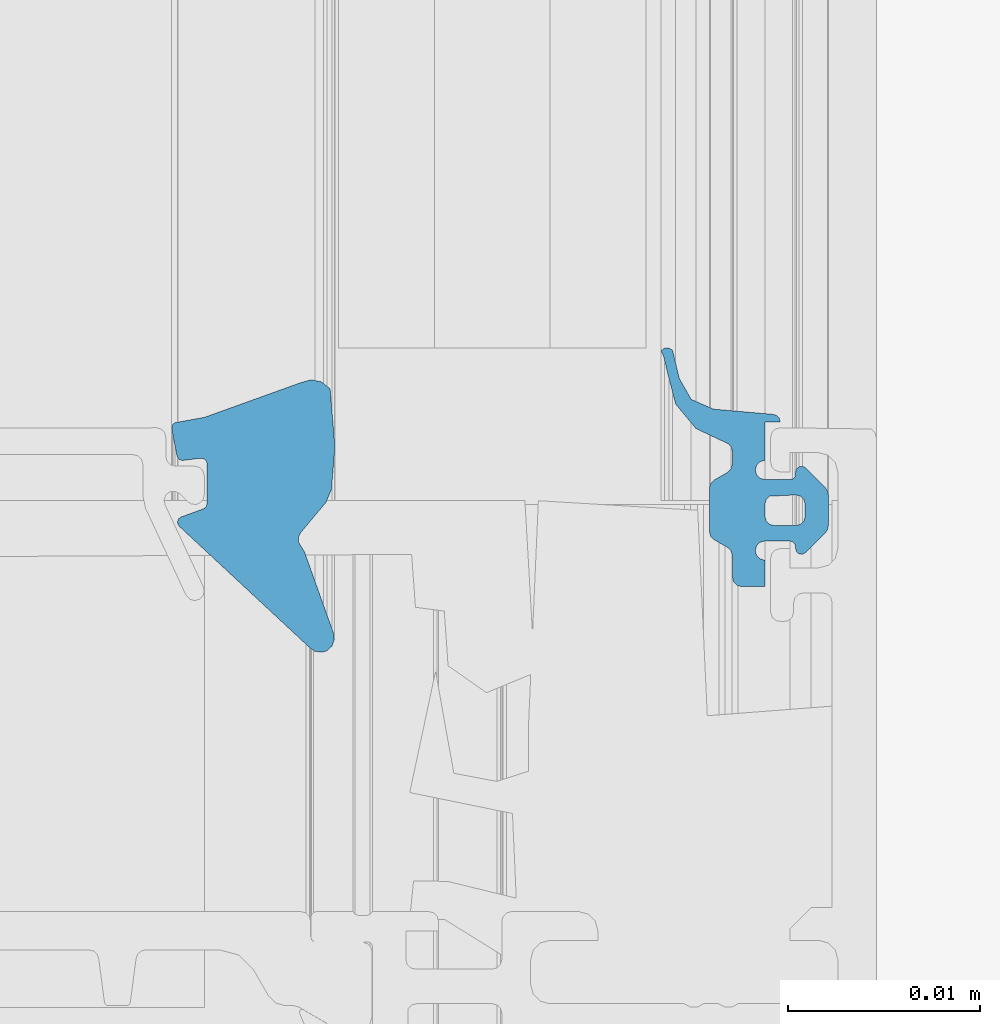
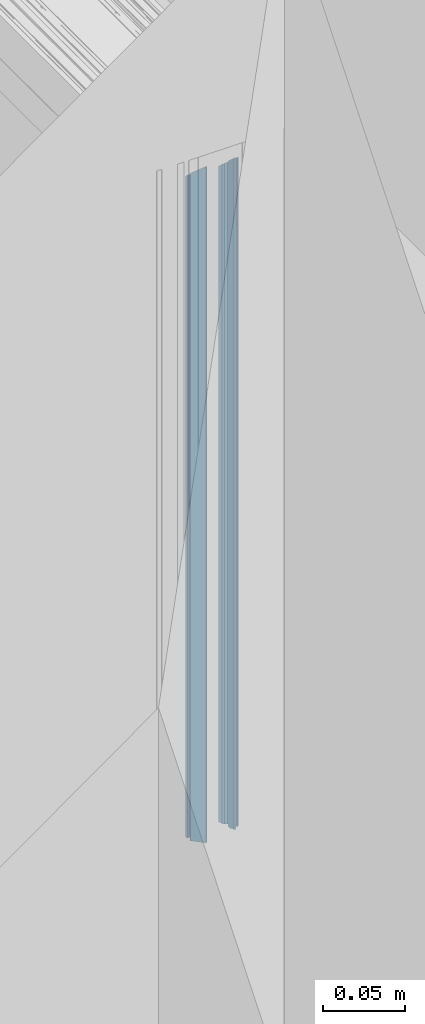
# One storey, part 28 of 89: 1 building element part, 2 elements without a shape of their own.
"""IFC2X3 building model written with IfcOpenShell, lengths in millimetres."""

from ifc_helpers import new_model, entity, si_unit, converted_unit, derived_unit, money_unit, direction, frame, origin_with_axes, place, context, subcontext, project, spatial, faceted_brep, source, transform, mapped, material, type_object, element, aggregate, save


model = new_model("IFC2X3")

# Units and contexts
model_context = context("Model", 3, precision=0.01, world=origin_with_axes(), true_north=direction((0.0, 1.0)))
body_context = subcontext(model_context, "Body", "Model", "MODEL_VIEW")
ifc_project = project(units=[si_unit("LENGTHUNIT", "METRE", prefix="MILLI"), si_unit("AREAUNIT", "SQUARE_METRE"), si_unit("VOLUMEUNIT", "CUBIC_METRE"), converted_unit("PLANEANGLEUNIT", "DEGREE", entity("IfcPlaneAngleMeasure", 0.0174532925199), si_unit("PLANEANGLEUNIT", "RADIAN"), dimensions=[0, 0, 0, 0, 0, 0, 0]), si_unit("SOLIDANGLEUNIT", "STERADIAN"), money_unit("EUR"), converted_unit("TIMEUNIT", "Year", entity("IfcTimeMeasure", 31556926.0), si_unit("TIMEUNIT", "SECOND"), dimensions=[0, 0, 1, 0, 0, 0, 0]), si_unit("MASSUNIT", "GRAM", prefix="KILO"), si_unit("THERMODYNAMICTEMPERATUREUNIT", "DEGREE_CELSIUS"), si_unit("LUMINOUSINTENSITYUNIT", "LUMEN"), si_unit("ENERGYUNIT", "JOULE", prefix="MEGA"), derived_unit("THERMALCONDUCTANCEUNIT", [(si_unit("POWERUNIT", "WATT"), 1), (si_unit("LENGTHUNIT", "METRE"), -1), (si_unit("THERMODYNAMICTEMPERATUREUNIT", "KELVIN"), -1)]), derived_unit("SPECIFICHEATCAPACITYUNIT", [(si_unit("ENERGYUNIT", "JOULE"), 1), (si_unit("MASSUNIT", "GRAM", prefix="KILO"), -1), (si_unit("THERMODYNAMICTEMPERATUREUNIT", "KELVIN"), -1)]), derived_unit("MASSDENSITYUNIT", [(si_unit("MASSUNIT", "GRAM", prefix="KILO"), 1), (si_unit("VOLUMEUNIT", "CUBIC_METRE"), -1)])], contexts=[model_context])

# Site, building, storey
site_placement = place(None, origin_with_axes())
site = spatial("IfcSite", under=ifc_project, at=site_placement, Name="Puškini 31, Narva", CompositionType="ELEMENT")
building_placement = place(site_placement, origin_with_axes())
building = spatial("IfcBuilding", under=site, at=building_placement, Name="Narva Riigigümnaasium", CompositionType="ELEMENT")
storey_placement = place(building_placement, frame((0.0, 0.0, -3300.0), z_axis=(0.0, 0.0, 1.0), x_axis=(1.0, 0.0, 0.0)))
storey = spatial("IfcBuildingStorey", under=building, at=storey_placement, Name="1.korrus -3.3", CompositionType="ELEMENT", Elevation=-3300.0)

# Curtain wall, member, building element part
curtain_wall_type = type_object("IfcCurtainWallType", Name="Curtain Wall Type", PredefinedType="NOTDEFINED")
curtain_wall_placement = place(storey_placement, frame((34855.0104166, 221770.599999, -2.45869391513e-05), z_axis=(0.0, 0.0, 1.0), x_axis=(1.0, 0.0, 0.0)))
curtain_wall = element("IfcCurtainWall", 1, at=curtain_wall_placement, inside=storey, type_object=curtain_wall_type, Name="G-SKLF-08")
member_type = type_object("IfcMemberType", Name="61 x 45", PredefinedType="MULLION")
member_placement = place(curtain_wall_placement, frame((0.00211230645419, -490.599999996, 2400.00002459), z_axis=(0.0, 0.0, 1.0), x_axis=(4.3055573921e-06, -0.999999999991, 0.0)))
member = element("IfcMember", 2, at=member_placement, type_object=member_type, Name="G-SKLF-08-raam", ObjectType="MULLION")
aggregate(curtain_wall, [member])
ifc_material = material(Name="Membraan - Veekindel")
shared_shape = source(origin_with_axes(), body_context, "Body", "Brep", [
    faceted_brep([(-61.0413385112, 34.3890442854, 0.0), (-61.0413385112, 34.3890442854, 488.958661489), (-59.5800222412, 34.73794757, 490.419977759), (-59.5800222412, 34.73794757, 0.0), (-61.1536677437, 34.1934467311, 0.0), (-61.1536677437, 34.1934467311, 488.846332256), (-61.1423164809, 33.9681748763, 488.857683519), (-61.0108941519, 33.784859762, 488.989105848), (-60.7381535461, 33.9217644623, 489.261846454), (-59.8409257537, 34.1343131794, 490.159074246), (-58.2346494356, 34.5489145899, 491.765350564), (-56.9567944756, 35.6067920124, 493.043205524), (-56.2495873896, 37.1074172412, 493.75041261), (-56.1542959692, 37.3107917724, 493.845704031), (-55.9795989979, 37.4519392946, 494.020401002), (-55.7607444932, 37.5023809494, 494.239255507), (-55.1093263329, 37.5023809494, 494.890673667), (-54.8593263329, 37.4353936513, 495.140673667), (-54.676313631, 37.2523809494, 495.323686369), (-54.2721684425, 36.5523809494, 495.727831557), (-54.0891557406, 36.3693682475, 495.910844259), (-53.8391557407, 36.3023809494, 496.160844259), (-51.602145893, 36.3023809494, 498.397854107), (-51.352145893, 36.3693682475, 498.647854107), (-51.1691331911, 36.5523809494, 498.830866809), (-50.7649880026, 37.2523809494, 499.235011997), (-50.5819753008, 37.4353936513, 499.418024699), (-50.3319753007, 37.5023809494, 499.668024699), (-49.2206527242, 37.5023809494, 500.779347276), (-48.9706527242, 37.5693682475, 501.029347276), (-48.7876400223, 37.7523809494, 501.212359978), (-48.7206527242, 38.0023809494, 501.279347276), (-48.7206527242, 39.1999494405, 501.279347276), (-50.10004, 39.1999494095, 499.89996), (-50.1670287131, 38.9499497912, 499.832971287), (-50.3500424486, 38.7669381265, 499.649957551), (-50.6000428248, 38.699952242, 499.399957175), (-50.8500424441, 38.7669409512, 499.149957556), (-51.0330541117, 38.9499546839, 498.966945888), (-51.10004, 39.1999550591, 498.89996), (-51.10004, 40.4999366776, 498.89996), (-51.0598476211, 40.6499366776, 498.940152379), (-50.95004, 40.7597442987, 499.04996), (-50.80004, 40.7999366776, 499.19996), (-50.7000457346, 40.7999366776, 499.299954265), (-50.5334025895, 40.8504763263, 499.466597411), (-50.4229059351, 40.9850671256, 499.577094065), (-50.4057850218, 41.1583618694, 499.594214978), (-50.4878083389, 41.3119729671, 499.512191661), (-51.5281601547, 42.3533311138, 498.471839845), (-51.6904310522, 42.4618421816, 498.309568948), (-51.8818844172, 42.4999486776, 498.118115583), (-53.517932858, 42.4999486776, 496.482067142), (-53.7093558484, 42.4618547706, 496.290644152), (-53.8716106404, 42.3533776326, 496.12838936), (-54.9122350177, 41.3120206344, 495.087764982), (-54.9942836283, 41.1584047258, 495.005716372), (-54.9771753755, 40.9850924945, 495.022824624), (-54.866675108, 40.850483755, 495.133324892), (-54.7000173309, 40.7999366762, 495.299982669), (-54.6000210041, 40.7999366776, 495.399978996), (-54.4500210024, 40.7597443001, 495.549978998), (-54.3402133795, 40.6499366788, 495.65978662), (-54.300021, 40.4999366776, 495.699979), (-54.300021, 39.1999606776, 495.699979), (-54.3670082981, 38.9499606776, 495.632991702), (-54.5500210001, 38.7669479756, 495.449979), (-54.8000210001, 38.6999606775, 495.199979), (-55.0500210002, 38.7669479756, 494.949979), (-55.2330337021, 38.9499606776, 494.766966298), (-55.3000210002, 39.1999606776, 494.699979), (-57.3000022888, 39.1999494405, 492.699997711), (-57.3000022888, 39.9999846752, 492.699997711), (-57.5000161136, 39.946391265, 492.499983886), (-57.6464370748, 39.799971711, 492.353562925), (-57.7000324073, 39.5999584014, 492.299967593), (-57.9693613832, 36.5265882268, 492.030638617), (-58.4755028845, 35.3628499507, 491.524497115), (-53.5000340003, 40.7999553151, 496.499966), (-53.4330491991, 41.0499459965, 496.566950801), (-53.2500433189, 41.2329518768, 496.749956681), (-53.0000526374, 41.299936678, 496.999947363), (-52.4000083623, 41.299936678, 497.599991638), (-52.150017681, 41.2329518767, 497.849982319), (-51.9670118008, 41.0499459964, 498.032988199), (-51.9000269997, 40.799955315, 498.099973), (-51.9000269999, 39.6999268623, 498.099973), (-51.9670129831, 39.4499317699, 498.032987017), (-52.1500220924, 39.2669226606, 497.849977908), (-52.4000171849, 39.1999366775, 497.599982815), (-53.0000438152, 39.1999366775, 496.999956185), (-53.2500389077, 39.2669226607, 496.749961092), (-53.433048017, 39.44993177, 496.566951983), (-58.4755028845, 35.3628499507, 0.0), (-57.9693613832, 36.5265882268, 0.0), (-57.7000324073, 39.5999584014, 0.0), (-57.6464370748, 39.799971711, 0.0), (-57.5000161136, 39.946391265, 0.0), (-57.3000022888, 39.9999846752, 0.0), (-57.3000022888, 39.1999494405, 0.0), (-55.3000210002, 39.1999606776, 0.0), (-55.2330337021, 38.9499606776, 0.0), (-55.0500210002, 38.7669479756, 0.0), (-54.8000210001, 38.6999606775, 0.0), (-54.5500210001, 38.7669479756, 0.0), (-54.3670082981, 38.9499606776, 0.0), (-54.300021, 39.1999606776, 0.0), (-54.300021, 40.4999366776, 0.0), (-54.3402133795, 40.6499366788, 0.0), (-54.4500210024, 40.7597443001, 0.0), (-54.6000210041, 40.7999366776, 0.0), (-54.7000173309, 40.7999366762, 0.0), (-54.866675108, 40.850483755, 0.0), (-54.9771753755, 40.9850924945, 0.0), (-54.9942836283, 41.1584047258, 0.0), (-54.9122350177, 41.3120206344, 0.0), (-53.8716106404, 42.3533776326, 0.0), (-53.7093558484, 42.4618547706, 0.0), (-53.517932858, 42.4999486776, 0.0), (-51.8818844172, 42.4999486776, 0.0), (-51.6904310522, 42.4618421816, 0.0), (-51.5281601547, 42.3533311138, 0.0), (-50.4878083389, 41.3119729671, 0.0), (-50.4057850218, 41.1583618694, 0.0), (-50.4229059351, 40.9850671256, 0.0), (-50.5334025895, 40.8504763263, 0.0), (-50.7000457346, 40.7999366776, 0.0), (-50.80004, 40.7999366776, 0.0), (-50.95004, 40.7597442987, 0.0), (-51.0598476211, 40.6499366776, 0.0), (-51.10004, 40.4999366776, 0.0), (-51.10004, 39.1999550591, 0.0), (-51.0330541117, 38.9499546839, 0.0), (-50.8500424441, 38.7669409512, 0.0), (-50.6000428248, 38.699952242, 0.0), (-50.3500424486, 38.7669381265, 0.0), (-50.1670287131, 38.9499497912, 0.0), (-50.10004, 39.1999494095, 0.0), (-48.7206527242, 39.1999494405, 0.0), (-48.7206527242, 38.0023809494, 0.0), (-48.7876400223, 37.7523809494, 0.0), (-48.9706527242, 37.5693682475, 0.0), (-49.2206527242, 37.5023809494, 0.0), (-50.3319753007, 37.5023809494, 0.0), (-50.5819753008, 37.4353936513, 0.0), (-50.7649880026, 37.2523809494, 0.0), (-51.1691331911, 36.5523809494, 0.0), (-51.352145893, 36.3693682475, 0.0), (-51.602145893, 36.3023809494, 0.0), (-53.8391557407, 36.3023809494, 0.0), (-54.0891557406, 36.3693682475, 0.0), (-54.2721684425, 36.5523809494, 0.0), (-54.676313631, 37.2523809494, 0.0), (-54.8593263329, 37.4353936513, 0.0), (-55.1093263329, 37.5023809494, 0.0), (-55.7607444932, 37.5023809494, 0.0), (-55.9795989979, 37.4519392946, 0.0), (-56.1542959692, 37.3107917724, 0.0), (-56.2495873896, 37.1074172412, 0.0), (-56.9567944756, 35.6067920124, 0.0), (-58.2346494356, 34.5489145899, 0.0), (-59.8409257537, 34.1343131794, 0.0), (-60.7381535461, 33.9217644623, 0.0), (-61.0108941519, 33.784859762, 0.0), (-61.1423164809, 33.9681748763, 0.0), (-53.5000340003, 40.7999553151, 0.0), (-53.433048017, 39.44993177, 0.0), (-53.2500389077, 39.2669226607, 0.0), (-53.0000438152, 39.1999366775, 0.0), (-52.4000171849, 39.1999366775, 0.0), (-52.1500220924, 39.2669226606, 0.0), (-51.9670129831, 39.4499317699, 0.0), (-51.9000269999, 39.6999268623, 0.0), (-51.9000269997, 40.799955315, 0.0), (-51.9670118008, 41.0499459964, 0.0), (-52.150017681, 41.2329518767, 0.0), (-52.4000083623, 41.299936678, 0.0), (-53.0000526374, 41.299936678, 0.0), (-53.2500433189, 41.2329518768, 0.0), (-53.4330491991, 41.0499459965, 0.0)], [[[0, 1, 2, 3]], [[4, 5, 1, 0]], [[1, 5, 6, 7, 8, 9, 10, 11, 12, 13, 14, 15, 16, 17, 18, 19, 20, 21, 22, 23, 24, 25, 26, 27, 28, 29, 30, 31, 32, 33, 34, 35, 36, 37, 38, 39, 40, 41, 42, 43, 44, 45, 46, 47, 48, 49, 50, 51, 52, 53, 54, 55, 56, 57, 58, 59, 60, 61, 62, 63, 64, 65, 66, 67, 68, 69, 70, 71, 72, 73, 74, 75, 76, 77, 2], [78, 79, 80, 81, 82, 83, 84, 85, 86, 87, 88, 89, 90, 91, 92]], [[3, 2, 77, 93]], [[0, 3, 93, 94, 95, 96, 97, 98, 99, 100, 101, 102, 103, 104, 105, 106, 107, 108, 109, 110, 111, 112, 113, 114, 115, 116, 117, 118, 119, 120, 121, 122, 123, 124, 125, 126, 127, 128, 129, 130, 131, 132, 133, 134, 135, 136, 137, 138, 139, 140, 141, 142, 143, 144, 145, 146, 147, 148, 149, 150, 151, 152, 153, 154, 155, 156, 157, 158, 159, 160, 161, 162, 163, 164, 4], [165, 166, 167, 168, 169, 170, 171, 172, 173, 174, 175, 176, 177, 178, 179]], [[164, 6, 5, 4]], [[163, 7, 6, 164]], [[162, 8, 7, 163]], [[161, 9, 8, 162]], [[160, 10, 9, 161]], [[159, 11, 10, 160]], [[158, 12, 11, 159]], [[157, 13, 12, 158]], [[156, 14, 13, 157]], [[155, 15, 14, 156]], [[154, 16, 15, 155]], [[153, 17, 16, 154]], [[152, 18, 17, 153]], [[151, 19, 18, 152]], [[150, 20, 19, 151]], [[149, 21, 20, 150]], [[148, 22, 21, 149]], [[147, 23, 22, 148]], [[146, 24, 23, 147]], [[145, 25, 24, 146]], [[144, 26, 25, 145]], [[143, 27, 26, 144]], [[142, 28, 27, 143]], [[141, 29, 28, 142]], [[140, 30, 29, 141]], [[139, 31, 30, 140]], [[138, 32, 31, 139]], [[137, 33, 32, 138]], [[136, 34, 33, 137]], [[135, 35, 34, 136]], [[134, 36, 35, 135]], [[133, 37, 36, 134]], [[132, 38, 37, 133]], [[131, 39, 38, 132]], [[130, 40, 39, 131]], [[129, 41, 40, 130]], [[128, 42, 41, 129]], [[127, 43, 42, 128]], [[126, 44, 43, 127]], [[125, 45, 44, 126]], [[124, 46, 45, 125]], [[123, 47, 46, 124]], [[122, 48, 47, 123]], [[121, 49, 48, 122]], [[120, 50, 49, 121]], [[119, 51, 50, 120]], [[118, 52, 51, 119]], [[117, 53, 52, 118]], [[116, 54, 53, 117]], [[115, 55, 54, 116]], [[114, 56, 55, 115]], [[113, 57, 56, 114]], [[112, 58, 57, 113]], [[111, 59, 58, 112]], [[110, 60, 59, 111]], [[109, 61, 60, 110]], [[108, 62, 61, 109]], [[107, 63, 62, 108]], [[106, 64, 63, 107]], [[105, 65, 64, 106]], [[104, 66, 65, 105]], [[103, 67, 66, 104]], [[102, 68, 67, 103]], [[101, 69, 68, 102]], [[100, 70, 69, 101]], [[99, 71, 70, 100]], [[98, 72, 71, 99]], [[97, 73, 72, 98]], [[96, 74, 73, 97]], [[95, 75, 74, 96]], [[94, 76, 75, 95]], [[93, 77, 76, 94]], [[179, 79, 78, 165]], [[178, 80, 79, 179]], [[177, 81, 80, 178]], [[176, 82, 81, 177]], [[175, 83, 82, 176]], [[174, 84, 83, 175]], [[173, 85, 84, 174]], [[172, 86, 85, 173]], [[171, 87, 86, 172]], [[170, 88, 87, 171]], [[169, 89, 88, 170]], [[168, 90, 89, 169]], [[167, 91, 90, 168]], [[166, 92, 91, 167]], [[165, 78, 92, 166]]]),
    faceted_brep([(-59.0307115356, 16.554149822, 0.0), (-59.0307115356, 16.554149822, 490.969288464), (-55.9926715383, 16.8063498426, 494.007328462), (-55.9926715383, 16.8063498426, 0.0), (-59.3884652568, 16.1092618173, 0.0), (-59.3884652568, 16.1092618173, 490.611534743), (-59.5001582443, 15.5494067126, 490.499841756), (-59.3405112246, 15.0012955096, 490.659488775), (-57.5418652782, 10.0035930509, 492.458134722), (-57.2632233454, 8.46932121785, 492.736776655), (-57.1824204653, 8.36745448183, 492.817579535), (-57.0661058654, 8.3093438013, 492.933894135), (-56.9361285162, 8.30590490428, 493.063871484), (-55.5361285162, 8.57803733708, 494.463871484), (-55.4168250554, 8.62997353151, 494.583174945), (-55.3307332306, 8.72753828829, 494.669266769), (-55.2940485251, 8.85237785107, 494.705951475), (-55.4099827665, 9.81272116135, 494.590017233), (-55.3838261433, 9.9780831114, 494.616173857), (-55.2731258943, 10.1036784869, 494.726874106), (-55.1123574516, 10.1503930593, 494.887642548), (-53.0580290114, 10.1503930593, 496.941970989), (-52.8859560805, 10.0961386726, 497.11404392), (-52.7761212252, 9.95299910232, 497.223878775), (-52.3556584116, 8.79778701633, 497.644341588), (-52.2574645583, 8.66326410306, 497.742535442), (-52.1026310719, 8.60190419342, 497.897368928), (-51.938943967, 8.6326446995, 498.061056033), (-51.8169217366, 8.74599822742, 498.183078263), (-45.6142070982, 15.4144760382, 504.385792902), (-45.3418968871, 15.7688623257, 504.658103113), (-45.3195226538, 16.2152275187, 504.680477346), (-45.3889077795, 16.3899097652, 504.611092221), (-45.6241929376, 16.6482027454, 504.375807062), (-45.950966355, 16.7718696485, 504.049033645), (-46.298307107, 16.7340705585, 503.701692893), (-50.5536994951, 15.2121179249, 499.446300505), (-50.8437237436, 15.0307134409, 499.156276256), (-51.0558924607, 14.9074036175, 498.944107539), (-51.3011765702, 14.8998814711, 498.69882343), (-51.5205025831, 15.0099586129, 498.479497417), (-53.1225200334, 16.3483062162, 496.877479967), (-53.7899070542, 16.6230039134, 496.210092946), (-53.7899070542, 16.6230039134, 0.0), (-53.1225200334, 16.3483062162, 0.0), (-51.5205025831, 15.0099586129, 0.0), (-51.3011765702, 14.8998814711, 0.0), (-51.0558924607, 14.9074036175, 0.0), (-50.8437237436, 15.0307134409, 0.0), (-50.5536994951, 15.2121179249, 0.0), (-46.298307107, 16.7340705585, 0.0), (-45.950966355, 16.7718696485, 0.0), (-45.6241929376, 16.6482027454, 0.0), (-45.3889077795, 16.3899097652, 0.0), (-45.3195226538, 16.2152275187, 0.0), (-45.3418968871, 15.7688623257, 0.0), (-45.6142070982, 15.4144760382, 0.0), (-51.8169217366, 8.74599822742, 0.0), (-51.938943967, 8.6326446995, 0.0), (-52.1026310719, 8.60190419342, 0.0), (-52.2574645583, 8.66326410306, 0.0), (-52.3556584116, 8.79778701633, 0.0), (-52.7761212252, 9.95299910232, 0.0), (-52.8859560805, 10.0961386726, 0.0), (-53.0580290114, 10.1503930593, 0.0), (-55.1123574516, 10.1503930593, 0.0), (-55.2731258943, 10.1036784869, 0.0), (-55.3838261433, 9.9780831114, 0.0), (-55.4099827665, 9.81272116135, 0.0), (-55.2940485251, 8.85237785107, 0.0), (-55.3307332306, 8.72753828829, 0.0), (-55.4168250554, 8.62997353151, 0.0), (-55.5361285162, 8.57803733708, 0.0), (-56.9361285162, 8.30590490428, 0.0), (-57.0661058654, 8.3093438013, 0.0), (-57.1824204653, 8.36745448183, 0.0), (-57.2632233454, 8.46932121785, 0.0), (-57.5418652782, 10.0035930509, 0.0), (-59.3405112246, 15.0012955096, 0.0), (-59.5001582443, 15.5494067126, 0.0)], [[[0, 1, 2, 3]], [[4, 5, 1, 0]], [[1, 5, 6, 7, 8, 9, 10, 11, 12, 13, 14, 15, 16, 17, 18, 19, 20, 21, 22, 23, 24, 25, 26, 27, 28, 29, 30, 31, 32, 33, 34, 35, 36, 37, 38, 39, 40, 41, 42, 2]], [[3, 2, 42, 43]], [[0, 3, 43, 44, 45, 46, 47, 48, 49, 50, 51, 52, 53, 54, 55, 56, 57, 58, 59, 60, 61, 62, 63, 64, 65, 66, 67, 68, 69, 70, 71, 72, 73, 74, 75, 76, 77, 78, 79, 4]], [[79, 6, 5, 4]], [[78, 7, 6, 79]], [[77, 8, 7, 78]], [[76, 9, 8, 77]], [[75, 10, 9, 76]], [[74, 11, 10, 75]], [[73, 12, 11, 74]], [[72, 13, 12, 73]], [[71, 14, 13, 72]], [[70, 15, 14, 71]], [[69, 16, 15, 70]], [[68, 17, 16, 69]], [[67, 18, 17, 68]], [[66, 19, 18, 67]], [[65, 20, 19, 66]], [[64, 21, 20, 65]], [[63, 22, 21, 64]], [[62, 23, 22, 63]], [[61, 24, 23, 62]], [[60, 25, 24, 61]], [[59, 26, 25, 60]], [[58, 27, 26, 59]], [[57, 28, 27, 58]], [[56, 29, 28, 57]], [[55, 30, 29, 56]], [[54, 31, 30, 55]], [[53, 32, 31, 54]], [[52, 33, 32, 53]], [[51, 34, 33, 52]], [[50, 35, 34, 51]], [[49, 36, 35, 50]], [[48, 37, 36, 49]], [[47, 38, 37, 48]], [[46, 39, 38, 47]], [[45, 40, 39, 46]], [[44, 41, 40, 45]], [[43, 42, 41, 44]]]),
])
building_element_part_placement = place(member_placement, origin_with_axes())
building_element_part = element("IfcBuildingElementPart", 3, at=building_element_part_placement, material=ifc_material, Name="Membraan - Veekindel", context=body_context, shape_type="MappedRepresentation", body=[
    mapped(shared_shape, transform((0.0, 0.0, 0.0))),
])
aggregate(member, [building_element_part])

save(model, "model.ifc")
